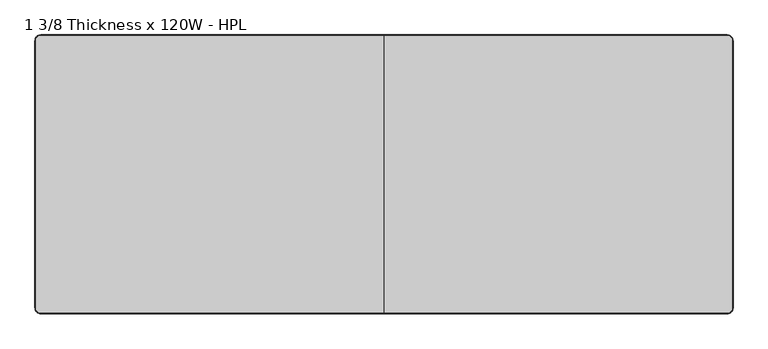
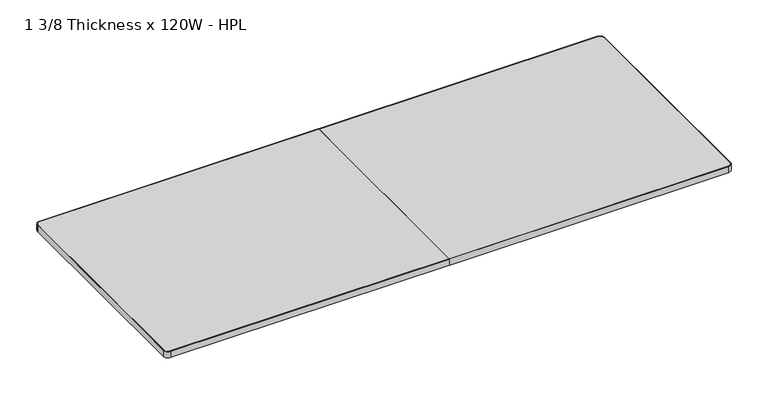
"""IFC4 building model written with IfcOpenShell, lengths in millimetres: furniture geometry, Steelcase - Groupwork - Table - Conference Table Top - Rectangular : 1 3/8 Thickness x 120W - HPL."""

from ifc_helpers import new_model, si_unit, point, frame, frame_2d, origin, place, context, project, spatial, polyline, circle_curve, trimmed, segment, composite_curve, outline, extrude, source, transform, mapped, element, save


def furniture_1_3_8_thickness_x_120w_hpl_50a926c5(model_context):
    return source(origin(), model_context, "Body", "SweptSolid", [
        extrude(outline(composite_curve([segment(trimmed(circle_curve(frame_2d((-1526.54, -583.74)), 22.86), [point((-1526.54, -606.6))], [point((-1549.4, -583.74))], False, "CARTESIAN"), True, "CONTINUOUS"), segment(polyline([(-1549.4, -583.74), (-1549.4, 583.74)]), True, "CONTINUOUS"), segment(trimmed(circle_curve(frame_2d((-1526.54, 583.74)), 22.86), [point((-1549.4, 583.74))], [point((-1526.54, 606.6))], False, "CARTESIAN"), True, "CONTINUOUS"), segment(polyline([(-1526.54, 606.6), (-29.7587236, 606.6), (-29.7587236, -606.6), (-1526.54, -606.6)]), True, "CONTINUOUS")], self_intersect=False)), frame((0.0, 0.0, 694.944), z_axis=(0.0, 0.0, 1.0), x_axis=(1.0, 0.0, 0.0)), (0.0, 0.0, 1.0), 35.052),
        extrude(outline(composite_curve([segment(trimmed(circle_curve(frame_2d((1469.74, 583.74)), 22.86), [point((1469.74, 606.6))], [point((1492.6, 583.74))], False, "CARTESIAN"), True, "CONTINUOUS"), segment(polyline([(1492.6, 583.74), (1492.6, -583.74)]), True, "CONTINUOUS"), segment(trimmed(circle_curve(frame_2d((1469.74, -583.74)), 22.86), [point((1492.6, -583.74))], [point((1469.74, -606.6))], False, "CARTESIAN"), True, "CONTINUOUS"), segment(polyline([(1469.74, -606.6), (-27.2187236, -606.6), (-27.2187236, 606.6), (1469.74, 606.6)]), True, "CONTINUOUS")], self_intersect=False)), frame((0.0, 0.0, 694.944), z_axis=(0.0, 0.0, 1.0), x_axis=(1.0, 0.0, 0.0)), (0.0, 0.0, 1.0), 35.052),
        extrude(outline(composite_curve([segment(trimmed(circle_curve(frame_2d((-1527.0, -584.2)), 25.4), [point((-1527.0, -609.6))], [point((-1552.4, -584.2))], False, "CARTESIAN"), True, "CONTINUOUS"), segment(polyline([(-1552.4, -584.2), (-1552.4, 584.2)]), True, "CONTINUOUS"), segment(trimmed(circle_curve(frame_2d((-1527.0, 584.2)), 25.4), [point((-1552.4, 584.2))], [point((-1527.0, 609.6))], False, "CARTESIAN"), True, "CONTINUOUS"), segment(polyline([(-1527.0, 609.6), (-29.7587236, 609.6), (-29.7587236, 606.6), (-1526.54, 606.6)]), True, "CONTINUOUS"), segment(trimmed(circle_curve(frame_2d((-1526.54, 583.74)), 22.86), [point((-1526.54, 606.6))], [point((-1549.4, 583.74))], True, "CARTESIAN"), True, "CONTINUOUS"), segment(polyline([(-1549.4, 583.74), (-1549.4, -583.74)]), True, "CONTINUOUS"), segment(trimmed(circle_curve(frame_2d((-1526.54, -583.74)), 22.86), [point((-1549.4, -583.74))], [point((-1526.54, -606.6))], True, "CARTESIAN"), True, "CONTINUOUS"), segment(polyline([(-1526.54, -606.6), (-29.7587236, -606.6), (-29.7587236, -609.6), (-1527.0, -609.6)]), True, "CONTINUOUS")], self_intersect=False)), frame((0.0, 0.0, 694.944), z_axis=(0.0, 0.0, 1.0), x_axis=(1.0, 0.0, 0.0)), (0.0, 0.0, 1.0), 35.052),
        extrude(outline(composite_curve([segment(trimmed(circle_curve(frame_2d((1470.1385373, 584.1385373)), 25.4614627), [point((1470.1385373, 609.6))], [point((1495.6, 584.1385373))], False, "CARTESIAN"), True, "CONTINUOUS"), segment(polyline([(1495.6, 584.1385373), (1495.6, -584.2211297)]), True, "CONTINUOUS"), segment(trimmed(circle_curve(frame_2d((1470.2211297, -584.2211297)), 25.3788703), [point((1495.6, -584.2211297))], [point((1470.2211297, -609.6))], False, "CARTESIAN"), True, "CONTINUOUS"), segment(polyline([(1470.2211297, -609.6), (-27.2187236, -609.6), (-27.2187236, -606.6), (1469.573488, -606.6)]), True, "CONTINUOUS"), segment(trimmed(circle_curve(frame_2d((1469.573488, -583.573488)), 23.026512), [point((1469.573488, -606.6))], [point((1492.6, -583.573488))], True, "CARTESIAN"), True, "CONTINUOUS"), segment(polyline([(1492.6, -583.573488), (1492.6, 583.8064662)]), True, "CONTINUOUS"), segment(trimmed(circle_curve(frame_2d((1469.8064662, 583.8064662)), 22.7935338), [point((1492.6, 583.8064662))], [point((1469.8064662, 606.6))], True, "CARTESIAN"), True, "CONTINUOUS"), segment(polyline([(1469.8064662, 606.6), (-27.2187236, 606.6), (-27.2187236, 609.6), (1470.1385373, 609.6)]), True, "CONTINUOUS")], self_intersect=False)), frame((0.0, 0.0, 694.944), z_axis=(0.0, 0.0, 1.0), x_axis=(1.0, 0.0, 0.0)), (0.0, 0.0, 1.0), 35.052),
    ])


if __name__ == "__main__":
    model = new_model("IFC4")
    model_context = context("Model", 3, world=origin())
    ifc_project = project(units=[si_unit("LENGTHUNIT", "METRE", prefix="MILLI")], contexts=[model_context])
    site = spatial("IfcSite", under=ifc_project)
    building = spatial("IfcBuilding", under=site)
    placement = place(None, origin())
    furniture_1_3_8_thickness_x_120w_hpl_shape = furniture_1_3_8_thickness_x_120w_hpl_50a926c5(model_context)
    element("IfcFurniture", 1, ObjectType="Steelcase - Groupwork - Table - Conference Table Top - Rectangular : 1 3/8 Thickness x 120W - HPL", at=placement, inside=building, context=model_context, shape_type="MappedRepresentation", body=[
        mapped(furniture_1_3_8_thickness_x_120w_hpl_shape, transform((0.0, 0.0, 0.0), x_axis=(1.0, 0.0, 0.0), y_axis=(0.0, 1.0, 0.0), z_axis=(0.0, 0.0, 1.0))),
    ])
    save(model, "model.ifc")
